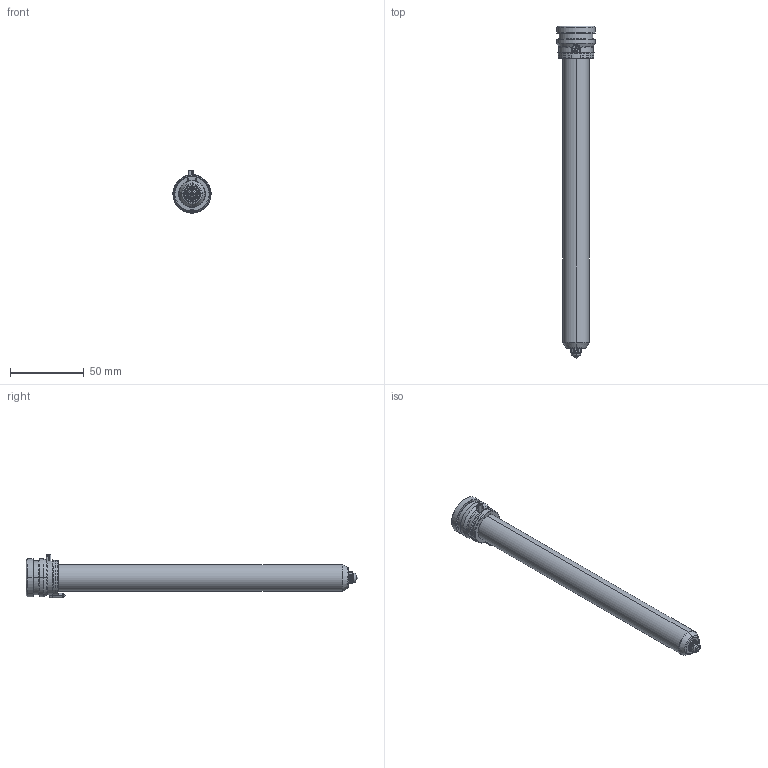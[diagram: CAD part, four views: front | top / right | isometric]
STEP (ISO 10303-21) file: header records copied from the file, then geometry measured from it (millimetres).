
FILE_DESCRIPTION((''),'2;1');
FILE_NAME('TH18207_5-A-1B15-PK-JG','2023-12-14T',('umhib'),('Thermoplay S.p.A.'),'PRO/ENGINEER BY PARAMETRIC TECHNOLOGY CORPORATION, 2017170','PRO/ENGINEER BY PARAMETRIC TECHNOLOGY CORPORATION, 2017170','');
FILE_SCHEMA(('CONFIG_CONTROL_DESIGN'));
Length unit declared in the file: millimetre
Products named in the file (1): TH18207_5-A-1B15-PK-JG
Bounding box: 26 x 225.5 x 29.5 mm (x, y, z)
Volume: 43963.1 mm3; surface area: 31970.7 mm2
Topology: 1 solids, 2 shells, 398 faces, 1036 edges, 643 vertices
Faces by surface type: cylinder 151, plane 85, cone 68, torus 56, bspline 24, sphere 12, extrusion 2
Entity records: 18118 total; most frequent: CARTESIAN_POINT 6162, ORIENTED_EDGE 2048, DIRECTION 2025, EDGE_CURVE 1026, AXIS2_PLACEMENT_3D 812, VERTEX_POINT 643, CIRCLE 439, EDGE_LOOP 418
